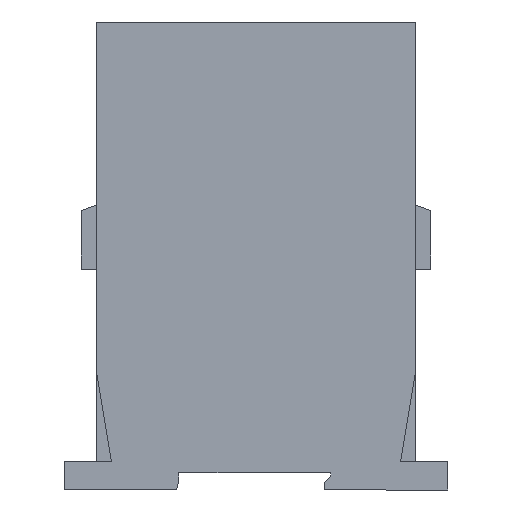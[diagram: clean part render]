
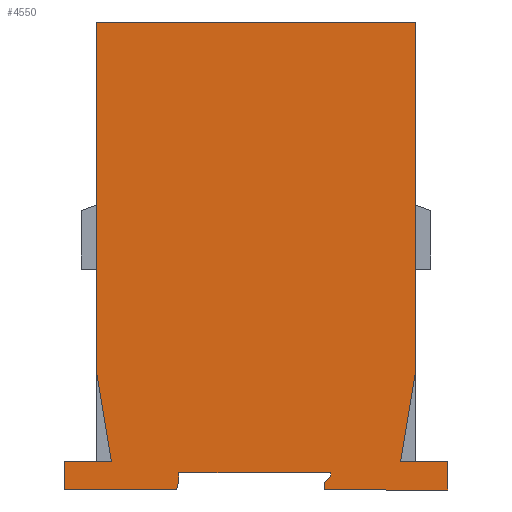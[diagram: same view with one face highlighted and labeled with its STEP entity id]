
A CAD part, left-side view. The second image highlights one B-rep face of the part: STEP entity #4550.
In plain terms, the highlighted planar face has unit normal (-1, 0, 0).
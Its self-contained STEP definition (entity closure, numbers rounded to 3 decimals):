
#8 = LINE ( 'NONE', #1229, #4777 ) ;
#33 = CARTESIAN_POINT ( 'NONE',  ( -22.5, 33.5, 6.5 ) ) ;
#150 = VERTEX_POINT ( 'NONE', #2636 ) ;
#189 = CARTESIAN_POINT ( 'NONE',  ( -22.5, -37., 108.5 ) ) ;
#227 = CARTESIAN_POINT ( 'NONE',  ( -22.5, -44.5, 6.5 ) ) ;
#271 = LINE ( 'NONE', #1749, #440 ) ;
#276 = VERTEX_POINT ( 'NONE', #2911 ) ;
#320 = ORIENTED_EDGE ( 'NONE', *, *, #2858, .F. ) ;
#324 = ORIENTED_EDGE ( 'NONE', *, *, #2378, .T. ) ;
#339 = ORIENTED_EDGE ( 'NONE', *, *, #2624, .F. ) ;
#374 = ORIENTED_EDGE ( 'NONE', *, *, #2762, .F. ) ;
#435 = VERTEX_POINT ( 'NONE', #2669 ) ;
#440 = VECTOR ( 'NONE', #1750, 1000. ) ;
#465 = LINE ( 'NONE', #1165, #1746 ) ;
#704 = VECTOR ( 'NONE', #1136, 1000. ) ;
#794 = ORIENTED_EDGE ( 'NONE', *, *, #2834, .F. ) ;
#822 = VECTOR ( 'NONE', #2339, 1000. ) ;
#830 = DIRECTION ( 'NONE',  ( 0., 0.243, -0.97 ) ) ;
#854 = CARTESIAN_POINT ( 'NONE',  ( -22.5, 17.9, 2. ) ) ;
#870 = ORIENTED_EDGE ( 'NONE', *, *, #2362, .T. ) ;
#905 = DIRECTION ( 'NONE',  ( 0., 0., -1. ) ) ;
#937 = CARTESIAN_POINT ( 'NONE',  ( -22.5, 17.9, 50.572 ) ) ;
#982 = VERTEX_POINT ( 'NONE', #2544 ) ;
#1010 = LINE ( 'NONE', #1601, #2274 ) ;
#1022 = DIRECTION ( 'NONE',  ( 0., 1., 0. ) ) ;
#1037 = CARTESIAN_POINT ( 'NONE',  ( -22.5, 17.9, 2. ) ) ;
#1104 = CARTESIAN_POINT ( 'NONE',  ( -22.5, 0., 4. ) ) ;
#1113 = DIRECTION ( 'NONE',  ( 0., -0.707, 0.707 ) ) ;
#1132 = DIRECTION ( 'NONE',  ( 0., 0., -1. ) ) ;
#1136 = DIRECTION ( 'NONE',  ( 0., 1., 0. ) ) ;
#1146 = EDGE_LOOP ( 'NONE', ( #794, #1443, #324, #374, #870, #5483, #3671, #1733, #1469, #339, #1936, #5470, #3269, #3793, #3013, #2067, #320 ) ) ;
#1147 = CARTESIAN_POINT ( 'NONE',  ( -22.5, 0., 0. ) ) ;
#1165 = CARTESIAN_POINT ( 'NONE',  ( -22.5, -15.8, 1.7 ) ) ;
#1203 = DIRECTION ( 'NONE',  ( 0., -1., 0. ) ) ;
#1206 = VECTOR ( 'NONE', #1444, 1000. ) ;
#1211 = CARTESIAN_POINT ( 'NONE',  ( -22.5, 0., 6.5 ) ) ;
#1229 = CARTESIAN_POINT ( 'NONE',  ( -22.5, -44.5, 50.572 ) ) ;
#1280 = DIRECTION ( 'NONE',  ( 0., 0.164, -0.986 ) ) ;
#1296 = CARTESIAN_POINT ( 'NONE',  ( -22.5, -37., 27.5 ) ) ;
#1327 = LINE ( 'NONE', #1378, #1869 ) ;
#1353 = DIRECTION ( 'NONE',  ( 0., 0., -1. ) ) ;
#1378 = CARTESIAN_POINT ( 'NONE',  ( -22.5, -37., 50.572 ) ) ;
#1427 = CARTESIAN_POINT ( 'NONE',  ( -22.5, -15.8, 0. ) ) ;
#1443 = ORIENTED_EDGE ( 'NONE', *, *, #2779, .F. ) ;
#1444 = DIRECTION ( 'NONE',  ( 0., -1., 0. ) ) ;
#1456 = CARTESIAN_POINT ( 'NONE',  ( -22.5, 37., 50.572 ) ) ;
#1469 = ORIENTED_EDGE ( 'NONE', *, *, #2639, .F. ) ;
#1472 = CARTESIAN_POINT ( 'NONE',  ( -22.5, 0., 108.5 ) ) ;
#1478 = VECTOR ( 'NONE', #2188, 1000. ) ;
#1481 = DIRECTION ( 'NONE',  ( 0., 0.164, 0.986 ) ) ;
#1484 = VERTEX_POINT ( 'NONE', #5563 ) ;
#1491 = VERTEX_POINT ( 'NONE', #3078 ) ;
#1499 = DIRECTION ( 'NONE',  ( 0., 0., 1. ) ) ;
#1516 = DIRECTION ( 'NONE',  ( 0., -1., 0. ) ) ;
#1601 = CARTESIAN_POINT ( 'NONE',  ( -22.5, 33.5, 6.5 ) ) ;
#1614 = CARTESIAN_POINT ( 'NONE',  ( -22.5, 0., 6.5 ) ) ;
#1650 = DIRECTION ( 'NONE',  ( 0., 0., 1. ) ) ;
#1659 = LINE ( 'NONE', #2196, #1478 ) ;
#1679 = CARTESIAN_POINT ( 'NONE',  ( -22.5, 44.5, 50.572 ) ) ;
#1733 = ORIENTED_EDGE ( 'NONE', *, *, #2720, .F. ) ;
#1746 = VECTOR ( 'NONE', #1113, 1000. ) ;
#1749 = CARTESIAN_POINT ( 'NONE',  ( -22.5, 0., 0. ) ) ;
#1750 = DIRECTION ( 'NONE',  ( 0., 1., 0. ) ) ;
#1833 = VERTEX_POINT ( 'NONE', #3738 ) ;
#1869 = VECTOR ( 'NONE', #1353, 1000. ) ;
#1936 = ORIENTED_EDGE ( 'NONE', *, *, #2614, .F. ) ;
#1972 = VERTEX_POINT ( 'NONE', #3129 ) ;
#2053 = VERTEX_POINT ( 'NONE', #5523 ) ;
#2067 = ORIENTED_EDGE ( 'NONE', *, *, #2513, .F. ) ;
#2188 = DIRECTION ( 'NONE',  ( 0., 0., -1. ) ) ;
#2196 = CARTESIAN_POINT ( 'NONE',  ( -22.5, -17.3, 4. ) ) ;
#2274 = VECTOR ( 'NONE', #1481, 1000. ) ;
#2339 = DIRECTION ( 'NONE',  ( 0., 0., -1. ) ) ;
#2362 = EDGE_CURVE ( 'NONE', #1484, #2629, #3748, .T. ) ;
#2378 = EDGE_CURVE ( 'NONE', #3672, #4254, #1659, .T. ) ;
#2393 = CARTESIAN_POINT ( 'NONE',  ( -22.5, -15.8, 1.7 ) ) ;
#2505 = VECTOR ( 'NONE', #905, 1000. ) ;
#2512 = CARTESIAN_POINT ( 'NONE',  ( -22.5, -17.3, 4. ) ) ;
#2513 = EDGE_CURVE ( 'NONE', #3080, #1833, #271, .T. ) ;
#2544 = CARTESIAN_POINT ( 'NONE',  ( -22.5, 17.9, 4. ) ) ;
#2564 = EDGE_CURVE ( 'NONE', #1833, #1491, #5309, .T. ) ;
#2575 = EDGE_CURVE ( 'NONE', #1491, #3874, #2754, .T. ) ;
#2576 = EDGE_CURVE ( 'NONE', #3874, #1972, #1010, .T. ) ;
#2604 = EDGE_CURVE ( 'NONE', #1972, #435, #4231, .T. ) ;
#2614 = EDGE_CURVE ( 'NONE', #435, #4469, #3554, .T. ) ;
#2624 = EDGE_CURVE ( 'NONE', #4469, #150, #1327, .T. ) ;
#2629 = VERTEX_POINT ( 'NONE', #1427 ) ;
#2636 = CARTESIAN_POINT ( 'NONE',  ( -22.5, -37., 27.5 ) ) ;
#2639 = EDGE_CURVE ( 'NONE', #150, #2053, #3283, .T. ) ;
#2669 = CARTESIAN_POINT ( 'NONE',  ( -22.5, 37., 108.5 ) ) ;
#2720 = EDGE_CURVE ( 'NONE', #2053, #3854, #3138, .T. ) ;
#2743 = EDGE_CURVE ( 'NONE', #3854, #276, #8, .T. ) ;
#2752 = EDGE_CURVE ( 'NONE', #276, #2629, #3568, .T. ) ;
#2754 = LINE ( 'NONE', #1614, #3317 ) ;
#2762 = EDGE_CURVE ( 'NONE', #1484, #4254, #465, .T. ) ;
#2779 = EDGE_CURVE ( 'NONE', #3672, #982, #5295, .T. ) ;
#2834 = EDGE_CURVE ( 'NONE', #982, #4401, #3026, .T. ) ;
#2839 = DIRECTION ( 'NONE',  ( 0., 0., -1. ) ) ;
#2858 = EDGE_CURVE ( 'NONE', #4401, #3080, #5516, .T. ) ;
#2868 = CARTESIAN_POINT ( 'NONE',  ( -22.5, -17.3, 3.2 ) ) ;
#2897 = PLANE ( 'NONE',  #3789 ) ;
#2911 = CARTESIAN_POINT ( 'NONE',  ( -22.5, -44.5, 0. ) ) ;
#2980 = CARTESIAN_POINT ( 'NONE',  ( -22.5, 18.4, 0. ) ) ;
#3013 = ORIENTED_EDGE ( 'NONE', *, *, #2564, .F. ) ;
#3026 = LINE ( 'NONE', #937, #2505 ) ;
#3056 = CARTESIAN_POINT ( 'NONE',  ( -22.5, 0., 50.572 ) ) ;
#3078 = CARTESIAN_POINT ( 'NONE',  ( -22.5, 44.5, 6.5 ) ) ;
#3080 = VERTEX_POINT ( 'NONE', #2980 ) ;
#3108 = VECTOR ( 'NONE', #1280, 1000. ) ;
#3129 = CARTESIAN_POINT ( 'NONE',  ( -22.5, 37., 27.5 ) ) ;
#3138 = LINE ( 'NONE', #1211, #4739 ) ;
#3165 = DIRECTION ( 'NONE',  ( 1., 0., 0. ) ) ;
#3269 = ORIENTED_EDGE ( 'NONE', *, *, #2576, .F. ) ;
#3283 = LINE ( 'NONE', #1296, #3108 ) ;
#3317 = VECTOR ( 'NONE', #1516, 1000. ) ;
#3479 = FACE_OUTER_BOUND ( 'NONE', #1146, .T. ) ;
#3554 = LINE ( 'NONE', #1472, #1206 ) ;
#3568 = LINE ( 'NONE', #1147, #704 ) ;
#3671 = ORIENTED_EDGE ( 'NONE', *, *, #2743, .F. ) ;
#3672 = VERTEX_POINT ( 'NONE', #2512 ) ;
#3738 = CARTESIAN_POINT ( 'NONE',  ( -22.5, 44.5, 0. ) ) ;
#3748 = LINE ( 'NONE', #2393, #822 ) ;
#3789 = AXIS2_PLACEMENT_3D ( 'NONE', #3056, #3165, #2839 ) ;
#3793 = ORIENTED_EDGE ( 'NONE', *, *, #2575, .F. ) ;
#3854 = VERTEX_POINT ( 'NONE', #227 ) ;
#3874 = VERTEX_POINT ( 'NONE', #33 ) ;
#4061 = VECTOR ( 'NONE', #1499, 1000. ) ;
#4231 = LINE ( 'NONE', #1456, #4061 ) ;
#4254 = VERTEX_POINT ( 'NONE', #2868 ) ;
#4360 = VECTOR ( 'NONE', #1022, 1000. ) ;
#4401 = VERTEX_POINT ( 'NONE', #1037 ) ;
#4469 = VERTEX_POINT ( 'NONE', #189 ) ;
#4542 = VECTOR ( 'NONE', #1650, 1000. ) ;
#4550 = ADVANCED_FACE ( 'NONE', ( #3479 ), #2897, .F. ) ;
#4707 = VECTOR ( 'NONE', #830, 1000. ) ;
#4739 = VECTOR ( 'NONE', #1203, 1000. ) ;
#4777 = VECTOR ( 'NONE', #1132, 1000. ) ;
#5295 = LINE ( 'NONE', #1104, #4360 ) ;
#5309 = LINE ( 'NONE', #1679, #4542 ) ;
#5470 = ORIENTED_EDGE ( 'NONE', *, *, #2604, .F. ) ;
#5483 = ORIENTED_EDGE ( 'NONE', *, *, #2752, .F. ) ;
#5516 = LINE ( 'NONE', #854, #4707 ) ;
#5523 = CARTESIAN_POINT ( 'NONE',  ( -22.5, -33.5, 6.5 ) ) ;
#5563 = CARTESIAN_POINT ( 'NONE',  ( -22.5, -15.8, 1.7 ) ) ;
